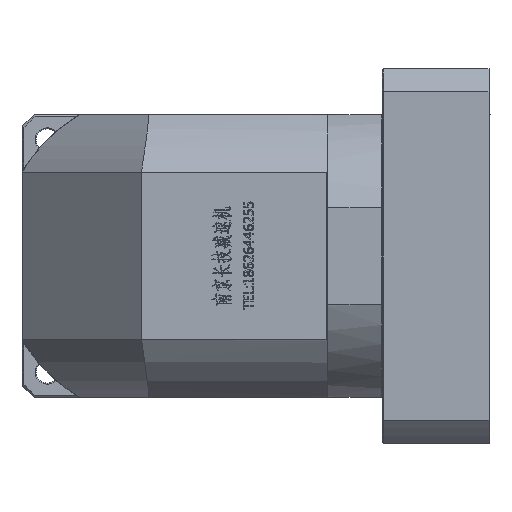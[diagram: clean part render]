
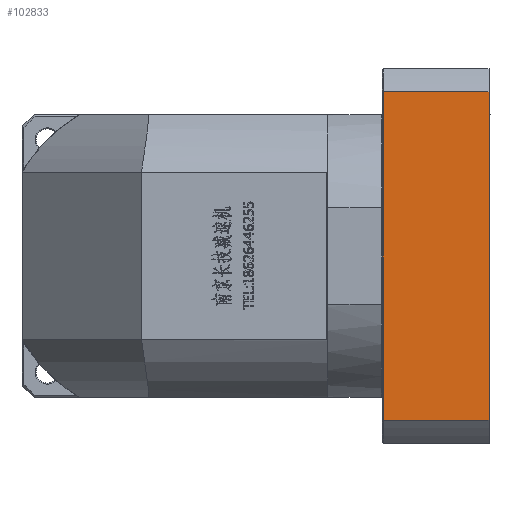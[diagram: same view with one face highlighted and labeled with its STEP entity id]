
A CAD part, left-side view. The second image highlights one B-rep face of the part: STEP entity #102833.
In plain terms, the highlighted planar face has unit normal (-1, 0, 0).
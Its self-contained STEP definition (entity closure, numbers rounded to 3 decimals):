
#1557 = VERTEX_POINT ( 'NONE', #33053 ) ;
#2807 = VECTOR ( 'NONE', #6161, 1000. ) ;
#6161 = DIRECTION ( 'NONE',  ( 0., 0., -1. ) ) ;
#13392 = ORIENTED_EDGE ( 'NONE', *, *, #129517, .F. ) ;
#16968 = EDGE_LOOP ( 'NONE', ( #82841, #141358, #68782, #13392 ) ) ;
#19708 = CARTESIAN_POINT ( 'NONE',  ( -334.551, -13.986, -129.167 ) ) ;
#27089 = LINE ( 'NONE', #19708, #2807 ) ;
#29743 = CARTESIAN_POINT ( 'NONE',  ( -334.551, 39.014, -117.562 ) ) ;
#32054 = EDGE_CURVE ( 'NONE', #163699, #101799, #39901, .T. ) ;
#33053 = CARTESIAN_POINT ( 'NONE',  ( -334.551, -13.986, 47.229 ) ) ;
#33222 = DIRECTION ( 'NONE',  ( 1., 0., 0. ) ) ;
#34882 = CARTESIAN_POINT ( 'NONE',  ( -334.551, -14.486, -129.167 ) ) ;
#39901 = LINE ( 'NONE', #59962, #96557 ) ;
#44625 = AXIS2_PLACEMENT_3D ( 'NONE', #34882, #33222, #84044 ) ;
#48143 = EDGE_CURVE ( 'NONE', #157489, #101799, #167242, .T. ) ;
#50781 = LINE ( 'NONE', #127424, #64953 ) ;
#59962 = CARTESIAN_POINT ( 'NONE',  ( -334.551, 39.014, -129.167 ) ) ;
#61655 = CARTESIAN_POINT ( 'NONE',  ( -334.551, 39.014, 47.229 ) ) ;
#64953 = VECTOR ( 'NONE', #128559, 1000. ) ;
#68782 = ORIENTED_EDGE ( 'NONE', *, *, #48143, .F. ) ;
#82162 = CARTESIAN_POINT ( 'NONE',  ( -334.551, 396.603, -117.562 ) ) ;
#82586 = DIRECTION ( 'NONE',  ( 0., 0., -1. ) ) ;
#82841 = ORIENTED_EDGE ( 'NONE', *, *, #143483, .F. ) ;
#84044 = DIRECTION ( 'NONE',  ( 0., 1., 0. ) ) ;
#96557 = VECTOR ( 'NONE', #82586, 1000. ) ;
#101799 = VERTEX_POINT ( 'NONE', #29743 ) ;
#102833 = ADVANCED_FACE ( 'NONE', ( #163160 ), #149098, .F. ) ;
#114708 = VECTOR ( 'NONE', #160214, 1000. ) ;
#127424 = CARTESIAN_POINT ( 'NONE',  ( -334.551, -14.486, 47.229 ) ) ;
#128559 = DIRECTION ( 'NONE',  ( 0., -1., 0. ) ) ;
#129517 = EDGE_CURVE ( 'NONE', #1557, #157489, #27089, .T. ) ;
#140318 = CARTESIAN_POINT ( 'NONE',  ( -334.551, -13.986, -117.562 ) ) ;
#141358 = ORIENTED_EDGE ( 'NONE', *, *, #32054, .T. ) ;
#143483 = EDGE_CURVE ( 'NONE', #163699, #1557, #50781, .T. ) ;
#149098 = PLANE ( 'NONE',  #44625 ) ;
#157489 = VERTEX_POINT ( 'NONE', #140318 ) ;
#160214 = DIRECTION ( 'NONE',  ( 0., 1., 0. ) ) ;
#163160 = FACE_OUTER_BOUND ( 'NONE', #16968, .T. ) ;
#163699 = VERTEX_POINT ( 'NONE', #61655 ) ;
#167242 = LINE ( 'NONE', #82162, #114708 ) ;
